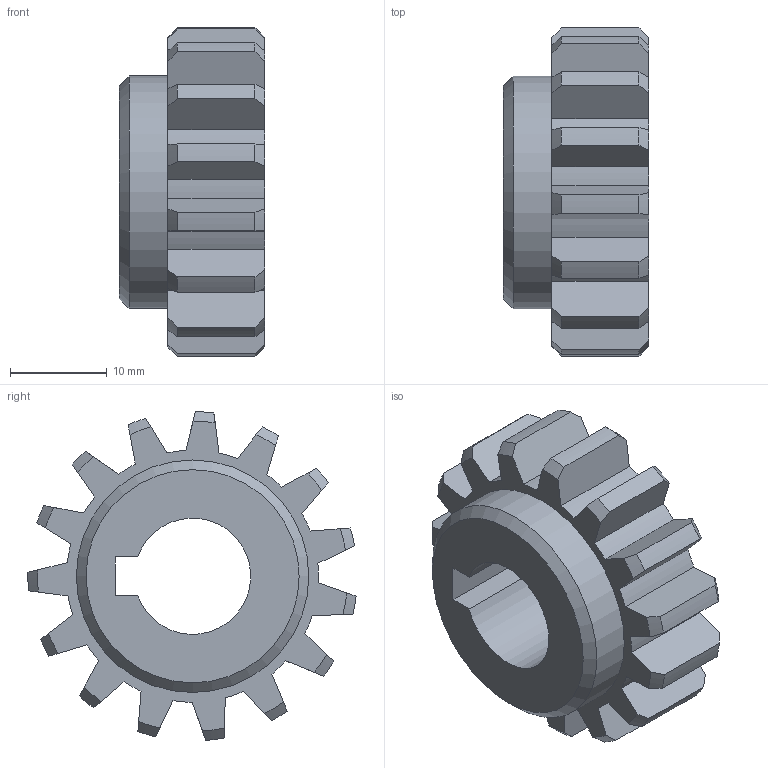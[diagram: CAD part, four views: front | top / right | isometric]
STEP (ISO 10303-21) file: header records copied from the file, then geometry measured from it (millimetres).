
FILE_DESCRIPTION(/* description */ ('GEAR'),/* implementation_level */ '2;1');
FILE_NAME(/* name */ 'C:\Users\Apardo\Documents\Proyectos\Dietrich\Proyecto 1\PLATE ROLLING MACHINE\STEP\1.15 gear.stp',/* time_stamp */ '2020-11-03T20:42:04-04:00',/* author */ ('Apardo'),/* organization */ ('19'),/* preprocessor_version */ 'ST-DEVELOPER v18',/* originating_system */ 'Autodesk Inventor 2020',/* authorisation */ '');
FILE_SCHEMA (('AUTOMOTIVE_DESIGN { 1 0 10303 214 3 1 1 }'));
Length unit declared in the file: millimetre
Products named in the file (1): gear
Bounding box: 15 x 33.87 x 33.94 mm (x, y, z)
Volume: 7286.7 mm3; surface area: 3879.1 mm2
Topology: 1 solids, 1 shells, 99 faces, 289 edges, 193 vertices
Faces by surface type: plane 36, cylinder 32, cone 31
Full cylindrical faces by diameter (mm): 24 x1
Entity records: 3293 total; most frequent: CARTESIAN_POINT 702, ORIENTED_EDGE 578, DIRECTION 526, EDGE_CURVE 289, AXIS2_PLACEMENT_3D 197, VERTEX_POINT 193, LINE 132, VECTOR 132
